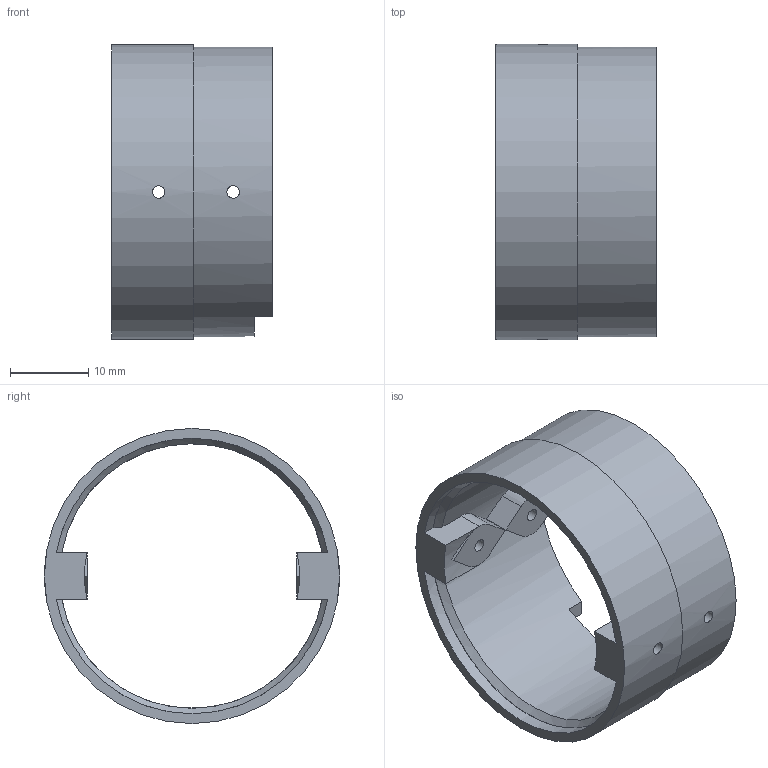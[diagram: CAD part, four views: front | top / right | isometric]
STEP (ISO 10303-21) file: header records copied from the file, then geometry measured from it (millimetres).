
FILE_DESCRIPTION(('SkyG Speed 90B - revision C6B-3 - 2026-10-08','TC-tail-coupler'),'2;1');
FILE_NAME('TC-tail-coupler_C6B-3','2026-10-08T03:13:11',('Author'),( 'Open CASCADE'),'Open CASCADE STEP processor 7.9','Open CASCADE 7.9' ,'Unknown');
FILE_SCHEMA(('AUTOMOTIVE_DESIGN { 1 0 10303 214 1 1 1 1 }'));
Length unit declared in the file: millimetre
Products named in the file (1): TC-tail-coupler C6B-3
Bounding box: 20.5 x 37.7 x 37.7 mm (x, y, z)
Volume: 4413.1 mm3; surface area: 5358.4 mm2
Topology: 1 solids, 1 shells, 53 faces, 152 edges, 101 vertices
Faces by surface type: plane 32, cylinder 19, cone 2
Full cylindrical faces by diameter (mm): 1.6 x4, 33.8 x1, 37 x1, 37.7 x1
Entity records: 4749 total; most frequent: CARTESIAN_POINT 1906, DIRECTION 470, ORIENTED_EDGE 304, PCURVE 304, DEFINITIONAL_REPRESENTATION 304, LINE 222, VECTOR 222, EDGE_CURVE 152
